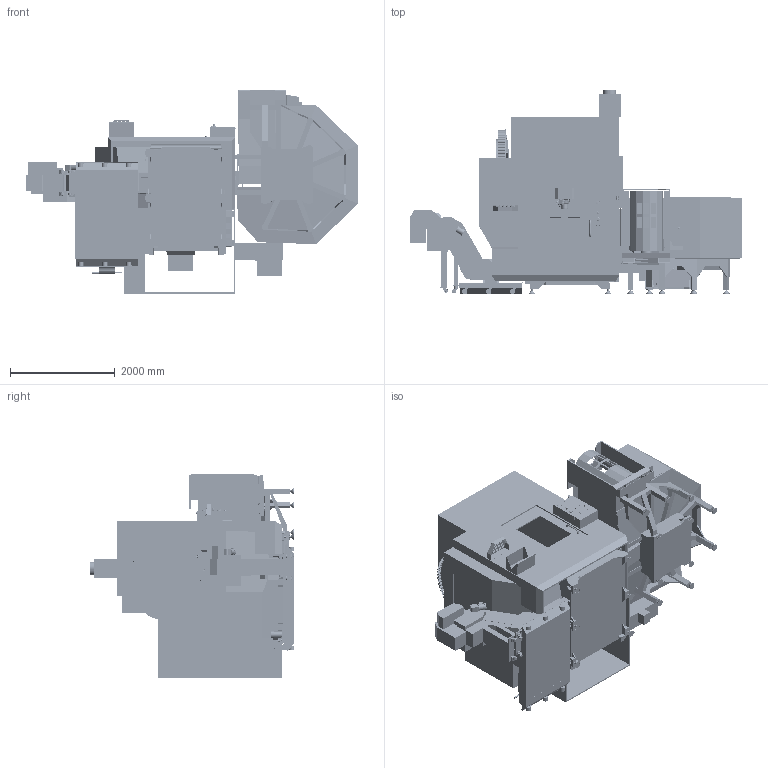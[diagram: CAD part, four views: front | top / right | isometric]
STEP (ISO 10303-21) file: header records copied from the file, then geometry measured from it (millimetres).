
FILE_DESCRIPTION (( 'STEP AP203' ), '1' );
FILE_NAME ('UMC-1000 with 10 station PP_11_2025.STEP', '2025-11-05T22:40:01', ( '' ), ( '' ), 'SwSTEP 2.0', 'SolidWorks 2023', '' );
FILE_SCHEMA (( 'CONFIG_CONTROL_DESIGN' ));
Length unit declared in the file: inch
Products named in the file (33): UMC-1000- Base Casting; UMC-1000- 50 Pkt Carousel; UMC-1000- Enclosure; UMC-1000- Tool Changer Arm Down; UMC-1000- AutoDoor; UMC-1000- Tool Changer Cam Box; UMC-1000- 40 Taper Spindle; UMC-1000- leveling pads; UMC-1000- PP Enclosure; UMC-1000- Y Axis; UMC-1000- CDF Conveyor; UMC-1000- Control Panel; UMC-1000- Pallet Reciever C-Axis; UMC-1000- HSK Spindle; UMC-1000- PP Base; UMC-1000- 95 Gallon Coolant Tank; UMC-1000- PP Loading Station Reciever; UMC-1000- X Axis; UMC-1000- Wips; UMC-1000- PP Leveling Pads; UMC-1000- Chip Conveyor; UMC-1000 with 10 station PP_11_2025; UMC-1000- PP Ram Assembly; UMC-1000- Auto WIndow; UMC-1000- Anchoring Pattern; UMC-1000- 70 Pkt Carousel; UMC-1000- Waycovers; UMC-1000- Tool Changer Arm Up; UMC-1000- Trunion; UMC-1000- PP Loading Station Door; UMC-1000- PP Pallet Set; UMC-1000- Filter Conveyor; UMC-1000- Z Axis
Assembly tree (32 placements, depth 2):
  UMC-1000 with 10 station PP_11_2025
    UMC-1000- Anchoring Pattern
    UMC-1000- leveling pads
    UMC-1000- Base Casting
    UMC-1000- Trunion
    UMC-1000- Wips
    UMC-1000- Pallet Reciever C-Axis
    UMC-1000- X Axis
    UMC-1000- Y Axis
    UMC-1000- Z Axis
    UMC-1000- 40 Taper Spindle
    UMC-1000- HSK Spindle
    UMC-1000- 50 Pkt Carousel
    UMC-1000- 70 Pkt Carousel
    UMC-1000- Tool Changer Cam Box
    UMC-1000- Tool Changer Arm Up
    UMC-1000- Tool Changer Arm Down
    UMC-1000- Waycovers
    UMC-1000- Enclosure
    UMC-1000- Auto WIndow
    UMC-1000- AutoDoor
    UMC-1000- Control Panel
    UMC-1000- Filter Conveyor
    UMC-1000- Chip Conveyor
    UMC-1000- CDF Conveyor
    UMC-1000- PP Leveling Pads
    UMC-1000- PP Base
    UMC-1000- PP Enclosure
    UMC-1000- PP Ram Assembly
    UMC-1000- PP Loading Station Reciever
    UMC-1000- PP Loading Station Door
    UMC-1000- PP Pallet Set
    UMC-1000- 95 Gallon Coolant Tank
Bounding box: 6338.4 x 3908.83 x 3886.43 mm (x, y, z)
Volume: 7440411679.9 mm3; surface area: 233223059.5 mm2
Topology: 96 solids, 112 shells, 16776 faces, 44075 edges, 28036 vertices
Faces by surface type: plane 8842, cylinder 4902, cone 1782, bspline 761, torus 372, sphere 117
Entity records: 621882 total; most frequent: CARTESIAN_POINT 208656, ORIENTED_EDGE 87496, DIRECTION 83374, EDGE_CURVE 43748, AXIS2_PLACEMENT_3D 28738, VERTEX_POINT 28019, LINE 25898, VECTOR 25898
